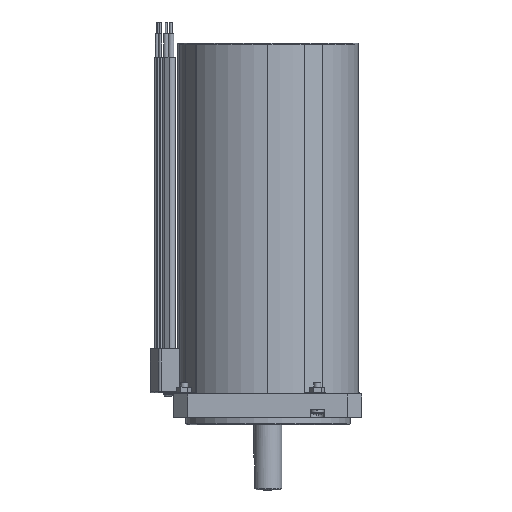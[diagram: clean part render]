
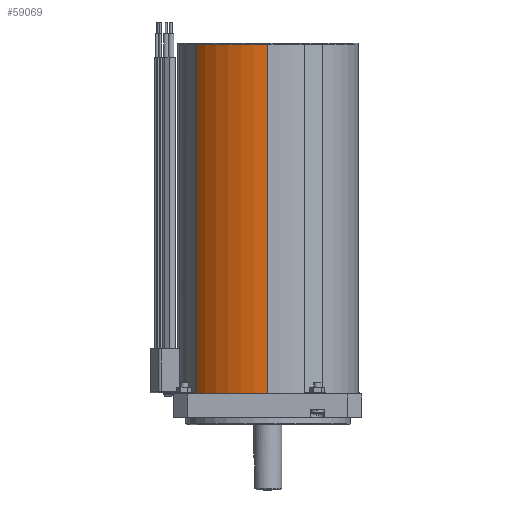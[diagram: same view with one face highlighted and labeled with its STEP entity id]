
A CAD part, left-side view. The second image highlights one B-rep face of the part: STEP entity #59069.
In plain terms, the highlighted cylindrical face has radius 38.419 mm (diameter 76.837 mm), a partial arc.
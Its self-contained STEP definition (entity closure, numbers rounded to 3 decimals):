
#6085 = LINE ( 'NONE', #116249, #203985 ) ;
#8244 = DIRECTION ( 'NONE',  ( -1., 0., 0. ) ) ;
#9263 = DIRECTION ( 'NONE',  ( 0., 0., -1. ) ) ;
#22858 = CARTESIAN_POINT ( 'NONE',  ( -57.857, 5.099, 223. ) ) ;
#34066 = DIRECTION ( 'NONE',  ( 0., 0., -1. ) ) ;
#34283 = DIRECTION ( 'NONE',  ( 0., 0., -1. ) ) ;
#47656 = CARTESIAN_POINT ( 'NONE',  ( -47.593, 25.888, 223. ) ) ;
#59069 = ADVANCED_FACE ( 'NONE', ( #225658 ), #174506, .T. ) ;
#60343 = DIRECTION ( 'NONE',  ( -1., 0., 0. ) ) ;
#67093 = CARTESIAN_POINT ( 'NONE',  ( -43.136, 29.726, 74.5 ) ) ;
#69612 = CARTESIAN_POINT ( 'NONE',  ( -55.526, 13.601, 223. ) ) ;
#72859 = EDGE_CURVE ( 'NONE', #109894, #277352, #6085, .T. ) ;
#73455 = ORIENTED_EDGE ( 'NONE', *, *, #72859, .F. ) ;
#91651 = CARTESIAN_POINT ( 'NONE',  ( -58.195, -0.774, 223. ) ) ;
#94150 = EDGE_CURVE ( 'NONE', #115119, #135760, #150007, .T. ) ;
#101508 = DIRECTION ( 'NONE',  ( 0., 0., -1. ) ) ;
#109894 = VERTEX_POINT ( 'NONE', #164818 ) ;
#111524 = CIRCLE ( 'NONE', #142814, 38.419 ) ;
#115119 = VERTEX_POINT ( 'NONE', #133289 ) ;
#116249 = CARTESIAN_POINT ( 'NONE',  ( -58.194, -0.774, 305.868 ) ) ;
#133289 = CARTESIAN_POINT ( 'NONE',  ( -43.136, 29.727, 223. ) ) ;
#135760 = VERTEX_POINT ( 'NONE', #67093 ) ;
#142814 = AXIS2_PLACEMENT_3D ( 'NONE', #167223, #101508, #60343 ) ;
#150007 = LINE ( 'NONE', #271779, #197876 ) ;
#153578 = CARTESIAN_POINT ( 'NONE',  ( -52.926, 18.867, 223. ) ) ;
#156468 = EDGE_LOOP ( 'NONE', ( #73455, #260245, #158774, #272659 ) ) ;
#158774 = ORIENTED_EDGE ( 'NONE', *, *, #94150, .T. ) ;
#164818 = CARTESIAN_POINT ( 'NONE',  ( -58.195, -0.774, 223. ) ) ;
#167223 = CARTESIAN_POINT ( 'NONE',  ( -19.775, -0.774, 74.5 ) ) ;
#174506 = CYLINDRICAL_SURFACE ( 'NONE', #279868, 38.419 ) ;
#178308 = CARTESIAN_POINT ( 'NONE',  ( -45.468, 27.942, 223. ) ) ;
#179367 = EDGE_CURVE ( 'NONE', #277352, #135760, #111524, .T. ) ;
#192755 = EDGE_CURVE ( 'NONE', #115119, #109894, #220289, .T. ) ;
#197876 = VECTOR ( 'NONE', #34283, 1000. ) ;
#200227 = CARTESIAN_POINT ( 'NONE',  ( -51.322, 21.351, 223. ) ) ;
#203985 = VECTOR ( 'NONE', #9263, 1000. ) ;
#211630 = CARTESIAN_POINT ( 'NONE',  ( -58.194, -0.774, 74.5 ) ) ;
#220289 = B_SPLINE_CURVE_WITH_KNOTS ( 'NONE', 3,
 ( #221240, #178308, #47656, #200227, #153578, #69612, #262282, #22858, #222178, #91651 ),
 .UNSPECIFIED., .F., .F.,
 ( 4, 2, 2, 2, 4 ),
 ( 0., 0.25, 0.5, 0.75, 1. ),
 .UNSPECIFIED. ) ;
#221240 = CARTESIAN_POINT ( 'NONE',  ( -43.136, 29.727, 223. ) ) ;
#222178 = CARTESIAN_POINT ( 'NONE',  ( -58.195, 2.162, 223. ) ) ;
#225658 = FACE_OUTER_BOUND ( 'NONE', #156468, .T. ) ;
#228650 = CARTESIAN_POINT ( 'NONE',  ( -19.775, -0.774, 305.868 ) ) ;
#260245 = ORIENTED_EDGE ( 'NONE', *, *, #192755, .F. ) ;
#262282 = CARTESIAN_POINT ( 'NONE',  ( -56.522, 10.818, 223. ) ) ;
#271779 = CARTESIAN_POINT ( 'NONE',  ( -43.136, 29.726, 305.868 ) ) ;
#272659 = ORIENTED_EDGE ( 'NONE', *, *, #179367, .F. ) ;
#277352 = VERTEX_POINT ( 'NONE', #211630 ) ;
#279868 = AXIS2_PLACEMENT_3D ( 'NONE', #228650, #34066, #8244 ) ;
